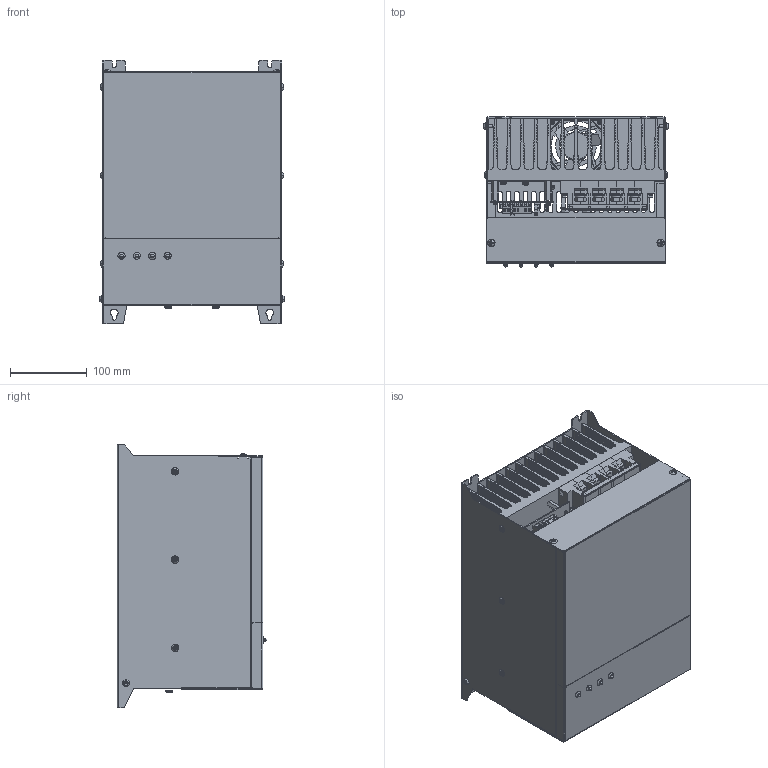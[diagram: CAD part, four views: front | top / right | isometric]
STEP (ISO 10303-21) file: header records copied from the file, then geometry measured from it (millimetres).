
FILE_DESCRIPTION((''),'2;1');
FILE_NAME('VFDB4110','2021-07-08T11:24:30',('MAKE.ZHANG'),(''),'CREO PARAMETRIC BY PTC INC, 2019080','CREO PARAMETRIC BY PTC INC, 2019080','');
FILE_SCHEMA(('CONFIG_CONTROL_DESIGN','SHAPE_APPEARANCE_LAYERS_GROUPS'));
Products named in the file (1): VFDB4110
Bounding box: 240.1 x 195.07 x 343 mm (x, y, z)
Surface area: 1221123.9 mm2 (no closed solid volume)
Topology: 0 solids, 240 shells, 1924 faces, 10446 edges, 8179 vertices
Faces by surface type: plane 1544, cylinder 222, cone 89, bspline 31, sphere 24, torus 14
Entity records: 110492 total; most frequent: CARTESIAN_POINT 30448, ORIENTED_EDGE 14403, DIRECTION 13615, EDGE_CURVE 10405, VECTOR 8385, LINE 8385, VERTEX_POINT 8179, AXIS2_PLACEMENT_3D 2615
